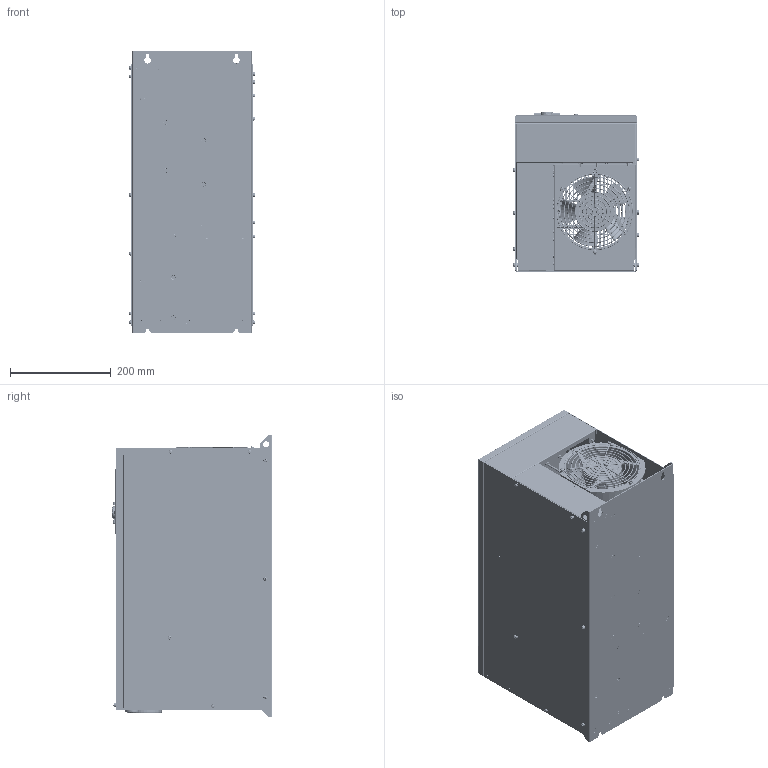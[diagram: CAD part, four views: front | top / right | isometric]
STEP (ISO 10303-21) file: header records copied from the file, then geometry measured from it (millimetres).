
FILE_DESCRIPTION(/* description */ (''),/* implementation_level */ '2;1');
FILE_NAME(/* name */ 'C:\Users\U390257\OneDrive - Danfoss\Documents\Работа\Текущие задачи\2022.04.26 Veichi 3D\Готовые модели\ac300-t3-045_075-3d\ac300-t3-045_075-3d.stp',/* time_stamp */ '2022-04-28T12:22:52+03:00',/* author */ ('U390257'),/* organization */ (''),/* preprocessor_version */ 'ST-DEVELOPER v18.1',/* originating_system */ 'Autodesk Inventor 2020',/* authorisation */ '');
FILE_SCHEMA (('AUTOMOTIVE_DESIGN { 1 0 10303 214 3 1 1 }'));
Products named in the file (38): ac300-t3-045_075-3d; AC300-T3-075GA-D_ASM; AC300-T3-075GA-A_ASM; AC300-T3-075GA-P_ASM; AC300-T3-075GA-P021_ASM; VEICHI-LOGO; Part282; ASM0001_ASM; AC300-T3-075GA-DS_ASM; M4X60_GB9074_8; M6X16_GB9074_13; M8X25_GB9074_13; M4X35_GB9074_8; M10_GB97_1; M10_GB93_87; M10_GB6170; M4X10_GB819_1; M4X12_GB9074_8; M3X8_GB9074_8; M5X14_GB9074_8; M6X14_GB9074_8; M6X16_GB9074_8; M5X12_GB9074_8; M4X10_GB9074_8; AC300-T3-075GA-A018_ASM; AC300-T3-075GA-A018P; S-M6-2; AC300-T3-075GA-P026_ASM; AC300-T3-075GA-P026; SO-3_5M3-6; VEDAVFD; tablichka3_gc_v_a; gc_v_a; display_2; knopka_pusk; knopka_stop; knopka_prg2; knopka_jog_rev
Assembly tree (162 placements, depth 4):
  ac300-t3-045_075-3d
    AC300-T3-075GA-D_ASM
    AC300-T3-075GA-A_ASM
    AC300-T3-075GA-P_ASM
      AC300-T3-075GA-P021_ASM
        VEICHI-LOGO
        Part282
      ASM0001_ASM
    AC300-T3-075GA-DS_ASM
      M5X12_GB9074_8  x18
      M6X14_GB9074_8  x14
      M4X10_GB9074_8  x42
      M4X60_GB9074_8  x3
      M6X16_GB9074_13  x2
      M8X25_GB9074_13  x8
      M4X35_GB9074_8  x2
      M10_GB97_1  x2
      M10_GB93_87  x2
      M10_GB6170  x2
      M4X10_GB819_1
      M3X8_GB9074_8  x6
      M4X12_GB9074_8  x10
      M5X14_GB9074_8  x9
      M6X16_GB9074_8  x18
    AC300-T3-075GA-A018_ASM
      AC300-T3-075GA-A018P
      S-M6-2
    AC300-T3-075GA-P026_ASM
      AC300-T3-075GA-P026
      SO-3_5M3-6  x2
    VEDAVFD
    tablichka3_gc_v_a
      gc_v_a
    display_2
      knopka_pusk
      knopka_stop
      knopka_prg2
      knopka_jog_rev
Bounding box: 249.38 x 317.97 x 558 mm (x, y, z)
Volume: 2362975.2 mm3; surface area: 3004649.9 mm2
Topology: 351 solids, 501 shells, 23930 faces, 63959 edges, 42438 vertices
Faces by surface type: plane 16761, cylinder 3406, bspline 2600, cone 471, torus 439, sphere 253
Full cylindrical faces by diameter (mm): 0.1 x4, 0.5 x8, 0.8 x30, 0.9 x8, 1 x19, 1.08 x1, 1.2 x2, 1.5 x4, 1.6 x2, 1.625 x2, 1.8 x8, 2 x87, 2.2 x12, 2.5 x65, 2.6 x6, 2.65 x12, 3 x21, 3.2 x5, 3.5 x76, 3.6 x29, 3.8 x20, 4 x126, 4.2 x34, 4.39 x4, 4.5 x43, 4.99 x8, 5 x74, 5.38 x29, 5.39 x12, 5.4 x42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
Entity records: 716633 total; most frequent: CARTESIAN_POINT 190170, ORIENTED_EDGE 110876, DIRECTION 100262, EDGE_CURVE 55464, LINE 40538, VECTOR 40538, VERTEX_POINT 36530, AXIS2_PLACEMENT_3D 29862
